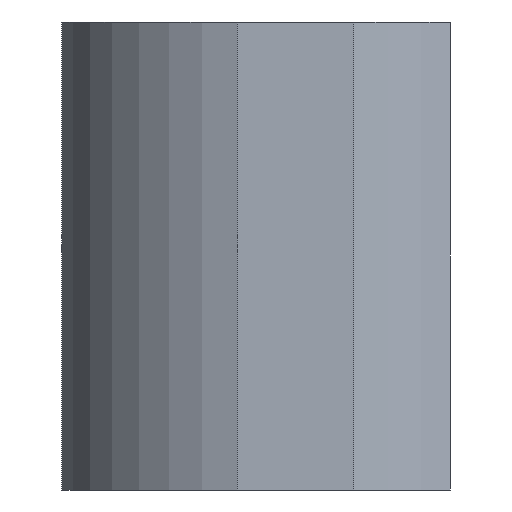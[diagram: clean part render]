
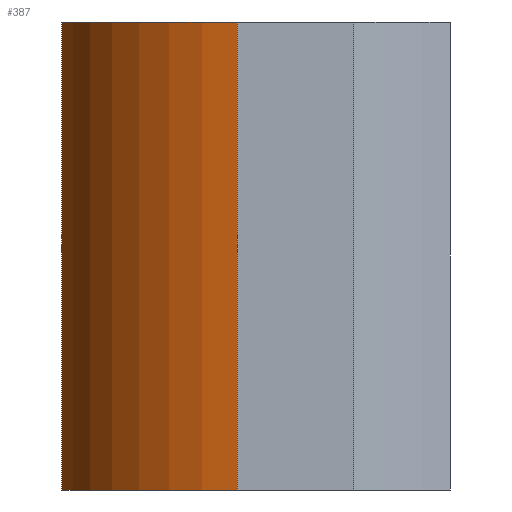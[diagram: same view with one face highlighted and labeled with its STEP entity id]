
A CAD part, left-side view. The second image highlights one B-rep face of the part: STEP entity #387.
In plain terms, the highlighted cylindrical face has radius 17 mm (diameter 34 mm), a partial arc.
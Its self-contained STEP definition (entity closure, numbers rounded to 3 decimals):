
#19 = DIRECTION ( 'NONE',  ( 1., 0., 0. ) ) ;
#37 = CARTESIAN_POINT ( 'NONE',  ( 0., 0., -16.5 ) ) ;
#46 = DIRECTION ( 'NONE',  ( 0., 0., 1. ) ) ;
#74 = VERTEX_POINT ( 'NONE', #108 ) ;
#108 = CARTESIAN_POINT ( 'NONE',  ( -4.093, 16.5, 16.5 ) ) ;
#136 = EDGE_CURVE ( 'NONE', #230, #448, #601, .T. ) ;
#141 = CIRCLE ( 'NONE', #574, 17. ) ;
#145 = CARTESIAN_POINT ( 'NONE',  ( -4.093, 16.5, 16.5 ) ) ;
#170 = ORIENTED_EDGE ( 'NONE', *, *, #621, .T. ) ;
#172 = VECTOR ( 'NONE', #301, 1000. ) ;
#190 = EDGE_CURVE ( 'NONE', #74, #448, #436, .T. ) ;
#210 = CYLINDRICAL_SURFACE ( 'NONE', #246, 17. ) ;
#230 = VERTEX_POINT ( 'NONE', #681 ) ;
#246 = AXIS2_PLACEMENT_3D ( 'NONE', #426, #598, #539 ) ;
#301 = DIRECTION ( 'NONE',  ( 0., 0., -1. ) ) ;
#311 = LINE ( 'NONE', #145, #172 ) ;
#347 = CARTESIAN_POINT ( 'NONE',  ( -16.5, 4.093, 16.5 ) ) ;
#387 = ADVANCED_FACE ( 'NONE', ( #586 ), #210, .T. ) ;
#404 = EDGE_CURVE ( 'NONE', #657, #230, #141, .T. ) ;
#426 = CARTESIAN_POINT ( 'NONE',  ( 0., 0., 16.5 ) ) ;
#436 = CIRCLE ( 'NONE', #593, 17. ) ;
#448 = VERTEX_POINT ( 'NONE', #347 ) ;
#451 = ORIENTED_EDGE ( 'NONE', *, *, #404, .T. ) ;
#455 = CARTESIAN_POINT ( 'NONE',  ( 0., 0., 16.5 ) ) ;
#479 = EDGE_LOOP ( 'NONE', ( #679, #170, #451, #713 ) ) ;
#481 = CARTESIAN_POINT ( 'NONE',  ( -4.093, 16.5, -16.5 ) ) ;
#539 = DIRECTION ( 'NONE',  ( -1., 0., 0. ) ) ;
#551 = VECTOR ( 'NONE', #599, 1000. ) ;
#561 = DIRECTION ( 'NONE',  ( 0., 0., 1. ) ) ;
#574 = AXIS2_PLACEMENT_3D ( 'NONE', #37, #46, #710 ) ;
#586 = FACE_OUTER_BOUND ( 'NONE', #479, .T. ) ;
#593 = AXIS2_PLACEMENT_3D ( 'NONE', #455, #561, #19 ) ;
#598 = DIRECTION ( 'NONE',  ( 0., 0., -1. ) ) ;
#599 = DIRECTION ( 'NONE',  ( 0., 0., 1. ) ) ;
#601 = LINE ( 'NONE', #656, #551 ) ;
#621 = EDGE_CURVE ( 'NONE', #74, #657, #311, .T. ) ;
#656 = CARTESIAN_POINT ( 'NONE',  ( -16.5, 4.093, 16.5 ) ) ;
#657 = VERTEX_POINT ( 'NONE', #481 ) ;
#679 = ORIENTED_EDGE ( 'NONE', *, *, #190, .F. ) ;
#681 = CARTESIAN_POINT ( 'NONE',  ( -16.5, 4.093, -16.5 ) ) ;
#710 = DIRECTION ( 'NONE',  ( 1., 0., 0. ) ) ;
#713 = ORIENTED_EDGE ( 'NONE', *, *, #136, .T. ) ;
